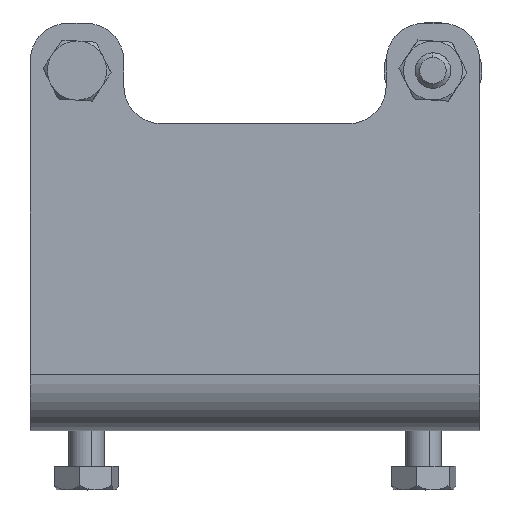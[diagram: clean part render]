
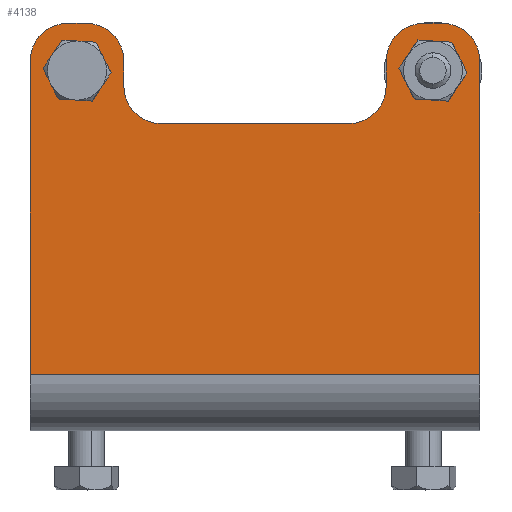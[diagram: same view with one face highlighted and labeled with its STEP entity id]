
A CAD part, top view. The second image highlights one B-rep face of the part: STEP entity #4138.
In plain terms, the highlighted planar face has unit normal (0, 0, 1).
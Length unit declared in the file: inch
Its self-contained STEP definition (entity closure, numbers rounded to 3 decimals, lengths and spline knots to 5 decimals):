
#3513=CARTESIAN_POINT('',(1.25,0.06496,0.188));
#3514=DIRECTION('',(0.,0.,1.));
#3515=DIRECTION('',(1.,0.,0.));
#3516=AXIS2_PLACEMENT_3D('',#3513,#3514,#3515);
#3518=DIRECTION('',(0.,1.,0.));
#3519=VECTOR('',#3518,2.09035);
#3520=CARTESIAN_POINT('',(1.5,-2.02539,0.188));
#3521=LINE('',#3520,#3519);
#3522=CARTESIAN_POINT('',(-1.25,0.06496,0.188));
#3523=DIRECTION('',(0.,0.,1.));
#3524=DIRECTION('',(0.,1.,0.));
#3525=AXIS2_PLACEMENT_3D('',#3522,#3523,#3524);
#3527=CARTESIAN_POINT('',(-1.125,0.06496,0.188));
#3528=DIRECTION('',(0.,0.,1.));
#3529=DIRECTION('',(1.,0.,0.));
#3530=AXIS2_PLACEMENT_3D('',#3527,#3528,#3529);
#3532=DIRECTION('',(0.,1.,0.));
#3533=VECTOR('',#3532,0.16929);
#3534=CARTESIAN_POINT('',(-0.875,-0.10433,0.188));
#3535=LINE('',#3534,#3533);
#3536=CARTESIAN_POINT('',(-0.625,-0.10433,0.188));
#3537=DIRECTION('',(0.,0.,-1.));
#3538=DIRECTION('',(0.,-1.,0.));
#3539=AXIS2_PLACEMENT_3D('',#3536,#3537,#3538);
#3541=DIRECTION('',(-1.,0.,0.));
#3542=VECTOR('',#3541,1.25);
#3543=CARTESIAN_POINT('',(0.625,-0.35433,0.188));
#3544=LINE('',#3543,#3542);
#3545=CARTESIAN_POINT('',(0.625,-0.10433,0.188));
#3546=DIRECTION('',(0.,0.,-1.));
#3547=DIRECTION('',(1.,0.,0.));
#3548=AXIS2_PLACEMENT_3D('',#3545,#3546,#3547);
#3550=DIRECTION('',(0.,-1.,0.));
#3551=VECTOR('',#3550,0.16929);
#3552=CARTESIAN_POINT('',(0.875,0.06496,0.188));
#3553=LINE('',#3552,#3551);
#3554=CARTESIAN_POINT('',(1.125,0.06496,0.188));
#3555=DIRECTION('',(0.,0.,1.));
#3556=DIRECTION('',(0.,1.,0.));
#3557=AXIS2_PLACEMENT_3D('',#3554,#3555,#3556);
#3559=CARTESIAN_POINT('',(-1.1875,0.,0.188));
#3560=DIRECTION('',(0.,0.,-1.));
#3561=DIRECTION('',(-1.,0.,0.));
#3562=AXIS2_PLACEMENT_3D('',#3559,#3560,#3561);
#3564=CARTESIAN_POINT('',(-1.1875,0.,0.188));
#3565=DIRECTION('',(0.,0.,-1.));
#3566=DIRECTION('',(1.,0.,0.));
#3567=AXIS2_PLACEMENT_3D('',#3564,#3565,#3566);
#3569=CARTESIAN_POINT('',(1.1875,0.,0.188));
#3570=DIRECTION('',(0.,0.,-1.));
#3571=DIRECTION('',(-1.,0.,0.));
#3572=AXIS2_PLACEMENT_3D('',#3569,#3570,#3571);
#3574=CARTESIAN_POINT('',(1.1875,0.,0.188));
#3575=DIRECTION('',(0.,0.,-1.));
#3576=DIRECTION('',(1.,0.,0.));
#3577=AXIS2_PLACEMENT_3D('',#3574,#3575,#3576);
#3579=DIRECTION('',(1.,0.,0.));
#3580=VECTOR('',#3579,0.125);
#3581=CARTESIAN_POINT('',(1.125,0.31496,0.188));
#3582=LINE('',#3581,#3580);
#3759=DIRECTION('',(0.,1.,0.));
#3760=VECTOR('',#3759,2.09035);
#3761=CARTESIAN_POINT('',(-1.5,-2.02539,0.188));
#3762=LINE('',#3761,#3760);
#3771=DIRECTION('',(1.,0.,0.));
#3772=VECTOR('',#3771,0.125);
#3773=CARTESIAN_POINT('',(-1.25,0.31496,0.188));
#3774=LINE('',#3773,#3772);
#3795=DIRECTION('',(-1.,0.,0.));
#3796=VECTOR('',#3795,3.);
#3797=CARTESIAN_POINT('',(1.5,-2.02539,0.188));
#3798=LINE('',#3797,#3796);
#3900=CARTESIAN_POINT('',(-0.875,-0.10433,0.188));
#3902=VERTEX_POINT('',#3900);
#3903=CARTESIAN_POINT('',(-1.05758,0.,0.188));
#3904=CARTESIAN_POINT('',(-1.31742,0.,0.188));
#3905=VERTEX_POINT('',#3903);
#3906=VERTEX_POINT('',#3904);
#3917=CARTESIAN_POINT('',(1.5,-2.02539,0.188));
#3918=CARTESIAN_POINT('',(-1.5,-2.02539,0.188));
#3919=VERTEX_POINT('',#3917);
#3920=VERTEX_POINT('',#3918);
#3930=CARTESIAN_POINT('',(0.875,0.06496,0.188));
#3932=VERTEX_POINT('',#3930);
#3935=CARTESIAN_POINT('',(-1.25,0.31496,0.188));
#3937=VERTEX_POINT('',#3935);
#3939=CARTESIAN_POINT('',(0.875,-0.10433,0.188));
#3941=VERTEX_POINT('',#3939);
#3951=CARTESIAN_POINT('',(-1.5,0.06496,0.188));
#3952=VERTEX_POINT('',#3951);
#3958=CARTESIAN_POINT('',(-1.125,0.31496,0.188));
#3960=VERTEX_POINT('',#3958);
#3967=CARTESIAN_POINT('',(-0.875,0.06496,0.188));
#3968=VERTEX_POINT('',#3967);
#3977=CARTESIAN_POINT('',(1.5,0.06496,0.188));
#3978=VERTEX_POINT('',#3977);
#3981=CARTESIAN_POINT('',(1.125,0.31496,0.188));
#3982=VERTEX_POINT('',#3981);
#3983=CARTESIAN_POINT('',(1.05758,0.,0.188));
#3984=CARTESIAN_POINT('',(1.31742,0.,0.188));
#3985=VERTEX_POINT('',#3983);
#3986=VERTEX_POINT('',#3984);
#3987=CARTESIAN_POINT('',(0.625,-0.35433,0.188));
#3988=CARTESIAN_POINT('',(-0.625,-0.35433,0.188));
#3989=VERTEX_POINT('',#3987);
#3990=VERTEX_POINT('',#3988);
#4009=CARTESIAN_POINT('',(1.25,0.31496,0.188));
#4010=VERTEX_POINT('',#4009);
#4093=CARTESIAN_POINT('',(1.5,-1.55512,0.188));
#4094=DIRECTION('',(0.,0.,-1.));
#4095=DIRECTION('',(0.,1.,0.));
#4096=AXIS2_PLACEMENT_3D('',#4093,#4094,#4095);
#4097=PLANE('',#4096);
#4099=ORIENTED_EDGE('',*,*,#4098,.T.);
#4101=ORIENTED_EDGE('',*,*,#4100,.F.);
#4103=ORIENTED_EDGE('',*,*,#4102,.F.);
#4105=ORIENTED_EDGE('',*,*,#4104,.T.);
#4107=ORIENTED_EDGE('',*,*,#4106,.T.);
#4109=ORIENTED_EDGE('',*,*,#4108,.F.);
#4111=ORIENTED_EDGE('',*,*,#4110,.T.);
#4113=ORIENTED_EDGE('',*,*,#4112,.F.);
#4115=ORIENTED_EDGE('',*,*,#4114,.F.);
#4117=ORIENTED_EDGE('',*,*,#4116,.F.);
#4118=ORIENTED_EDGE('',*,*,#4083,.F.);
#4120=ORIENTED_EDGE('',*,*,#4119,.F.);
#4122=ORIENTED_EDGE('',*,*,#4121,.F.);
#4124=ORIENTED_EDGE('',*,*,#4123,.F.);
#4125=EDGE_LOOP('',(#4099,#4101,#4103,#4105,#4107,#4109,#4111,#4113,#4115,#4117,
#4118,#4120,#4122,#4124));
#4126=FACE_OUTER_BOUND('',#4125,.F.);
#4128=ORIENTED_EDGE('',*,*,#4127,.F.);
#4130=ORIENTED_EDGE('',*,*,#4129,.F.);
#4131=EDGE_LOOP('',(#4128,#4130));
#4132=FACE_BOUND('',#4131,.F.);
#4134=ORIENTED_EDGE('',*,*,#4133,.F.);
#4135=ORIENTED_EDGE('',*,*,#4024,.F.);
#4136=EDGE_LOOP('',(#4134,#4135));
#4137=FACE_BOUND('',#4136,.F.);
#3517=CIRCLE('',#3516,0.25);
#3526=CIRCLE('',#3525,0.25);
#3531=CIRCLE('',#3530,0.25);
#3540=CIRCLE('',#3539,0.25);
#3549=CIRCLE('',#3548,0.25);
#3558=CIRCLE('',#3557,0.25);
#3563=CIRCLE('',#3562,0.12992);
#3568=CIRCLE('',#3567,0.12992);
#3573=CIRCLE('',#3572,0.12992);
#3578=CIRCLE('',#3577,0.12992);
#4024=EDGE_CURVE('',#3986,#3985,#3578,.T.);
#4083=EDGE_CURVE('',#3989,#3990,#3544,.T.);
#4098=EDGE_CURVE('',#3982,#4010,#3582,.T.);
#4100=EDGE_CURVE('',#3978,#4010,#3517,.T.);
#4102=EDGE_CURVE('',#3919,#3978,#3521,.T.);
#4104=EDGE_CURVE('',#3919,#3920,#3798,.T.);
#4106=EDGE_CURVE('',#3920,#3952,#3762,.T.);
#4108=EDGE_CURVE('',#3937,#3952,#3526,.T.);
#4110=EDGE_CURVE('',#3937,#3960,#3774,.T.);
#4112=EDGE_CURVE('',#3968,#3960,#3531,.T.);
#4114=EDGE_CURVE('',#3902,#3968,#3535,.T.);
#4116=EDGE_CURVE('',#3990,#3902,#3540,.T.);
#4119=EDGE_CURVE('',#3941,#3989,#3549,.T.);
#4121=EDGE_CURVE('',#3932,#3941,#3553,.T.);
#4123=EDGE_CURVE('',#3982,#3932,#3558,.T.);
#4127=EDGE_CURVE('',#3906,#3905,#3563,.T.);
#4129=EDGE_CURVE('',#3905,#3906,#3568,.T.);
#4133=EDGE_CURVE('',#3985,#3986,#3573,.T.);
#4138=ADVANCED_FACE('',(#4126,#4132,#4137),#4097,.F.);
